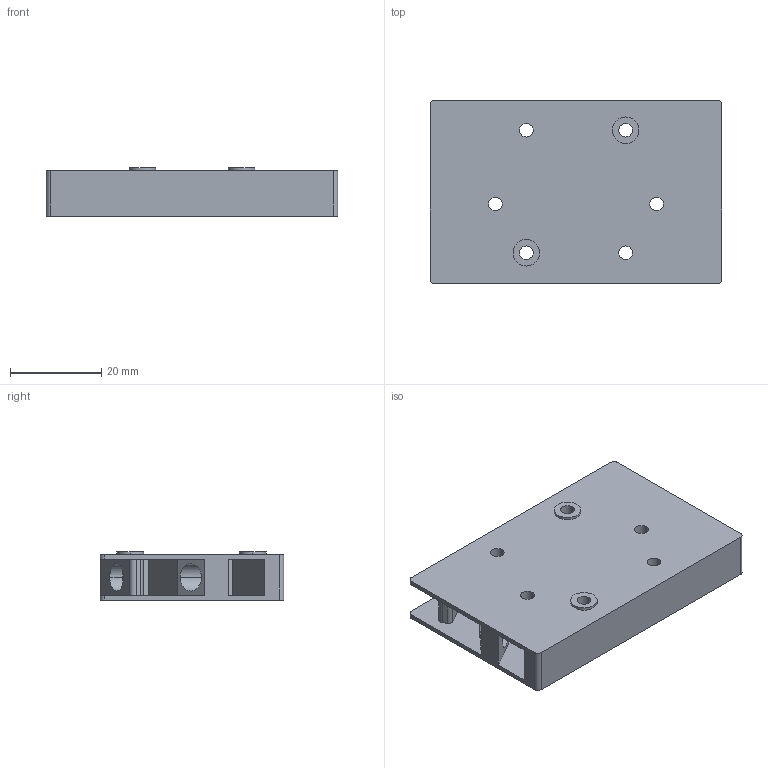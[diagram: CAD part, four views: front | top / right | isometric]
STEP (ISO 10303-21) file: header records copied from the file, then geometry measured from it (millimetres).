
FILE_DESCRIPTION (( 'STEP AP203' ), '1' );
FILE_NAME ('HB.STEP', '2009-07-13T07:17:14', ( 'Gutermuth' ), ( 'Benedict GmbH' ), 'SwSTEP 2.0', 'SolidWorks 2009', '' );
FILE_SCHEMA (( 'CONFIG_CONTROL_DESIGN' ));
Length unit declared in the file: millimetre
Products named in the file (1): HB
Bounding box: 64 x 40.3 x 10.6 mm (x, y, z)
Volume: 20277 mm3; surface area: 9689.7 mm2
Topology: 1 solids, 1 shells, 81 faces, 213 edges, 142 vertices
Faces by surface type: cylinder 43, plane 38
Entity records: 2646 total; most frequent: DIRECTION 455, CARTESIAN_POINT 449, ORIENTED_EDGE 426, EDGE_CURVE 213, AXIS2_PLACEMENT_3D 164, VERTEX_POINT 142, VECTOR 127, LINE 127
